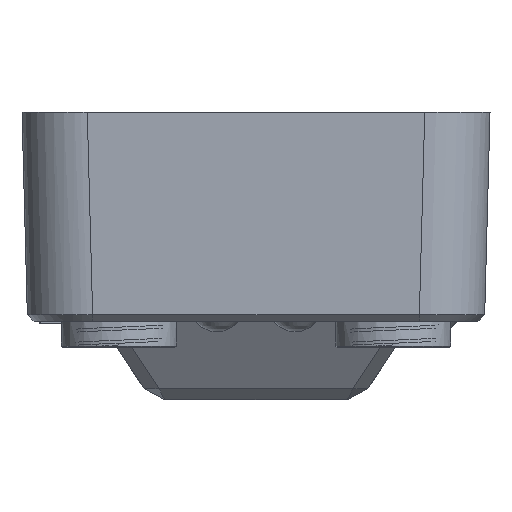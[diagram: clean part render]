
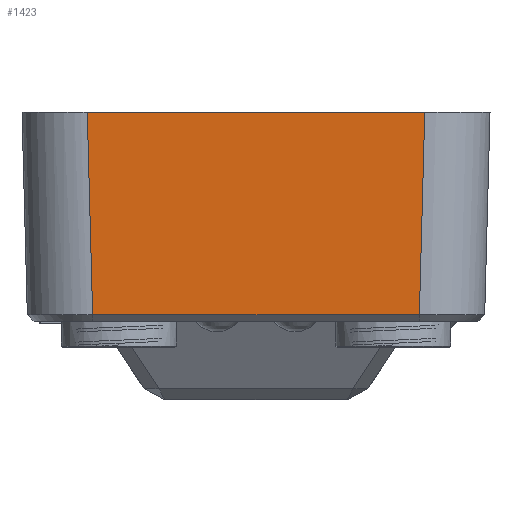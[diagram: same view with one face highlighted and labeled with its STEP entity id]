
A CAD part, left-side view. The second image highlights one B-rep face of the part: STEP entity #1423.
In plain terms, the highlighted planar face has unit normal (-1, 0, -0.026).
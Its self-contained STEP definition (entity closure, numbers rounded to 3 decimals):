
#527=FACE_OUTER_BOUND('',#6121,.T.);
#1423=ADVANCED_FACE('',(#527),#2277,.T.);
#2277=PLANE('',#15097);
#2841=LINE('',#20395,#4151);
#3009=LINE('',#21142,#4319);
#3010=LINE('',#21144,#4320);
#3011=LINE('',#21146,#4321);
#4151=VECTOR('',#16475,1.);
#4319=VECTOR('',#16735,1.);
#4320=VECTOR('',#16736,1.);
#4321=VECTOR('',#16737,1.);
#6121=EDGE_LOOP('',(#7553,#7554,#7555,#7556));
#7553=ORIENTED_EDGE('',*,*,#12825,.T.);
#7554=ORIENTED_EDGE('',*,*,#12826,.T.);
#7555=ORIENTED_EDGE('',*,*,#12827,.T.);
#7556=ORIENTED_EDGE('',*,*,#12601,.T.);
#11211=VERTEX_POINT('',#20394);
#11212=VERTEX_POINT('',#20396);
#11425=VERTEX_POINT('',#21143);
#11426=VERTEX_POINT('',#21145);
#12601=EDGE_CURVE('',#11212,#11211,#2841,.T.);
#12825=EDGE_CURVE('',#11211,#11425,#3009,.T.);
#12826=EDGE_CURVE('',#11425,#11426,#3010,.T.);
#12827=EDGE_CURVE('',#11426,#11212,#3011,.T.);
#15097=AXIS2_PLACEMENT_3D('',#21147,#16738,#16739);
#16475=DIRECTION('',(0.,1.,0.));
#16735=DIRECTION('',(0.026,-0.026,-0.999));
#16736=DIRECTION('',(0.,-1.,0.));
#16737=DIRECTION('',(-0.026,-0.026,0.999));
#16738=DIRECTION('',(-1.,0.,-0.026));
#16739=DIRECTION('',(-0.026,0.,1.));
#20394=CARTESIAN_POINT('',(36.581,30.421,16.));
#20395=CARTESIAN_POINT('',(36.581,0.,16.));
#20396=CARTESIAN_POINT('',(36.581,4.579,16.));
#21142=CARTESIAN_POINT('',(37.009,29.993,-0.327));
#21143=CARTESIAN_POINT('',(36.987,30.011,0.513));
#21144=CARTESIAN_POINT('',(36.987,17.5,0.513));
#21145=CARTESIAN_POINT('',(36.987,4.989,0.513));
#21146=CARTESIAN_POINT('',(37.009,5.007,-0.327));
#21147=CARTESIAN_POINT('',(37.,17.5,0.));
